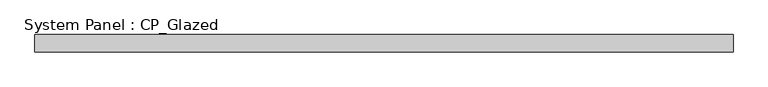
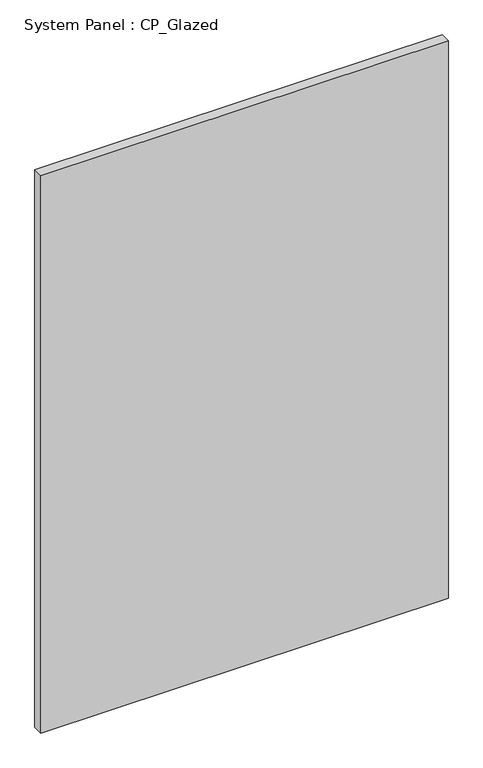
"""IFC4 building model written with IfcOpenShell, lengths in millimetres: plate geometry, System Panel : CP_Glazed."""

from ifc_helpers import new_model, si_unit, origin, origin_with_axes, place, context, project, spatial, polyline, outline, extrude, source, transform, mapped, element, save


def system_panel_cp_glazed_5e04bc7c(model_context):
    return source(origin(), model_context, "Body", "SweptSolid", [
        extrude(outline(polyline([(511.96875, -44.45), (-511.96875, -44.45), (-511.96875, -19.05), (511.96875, -19.05), (511.96875, -44.45)])), origin_with_axes(), (0.0, 0.0, 1.0), 1479.55),
    ])


if __name__ == "__main__":
    model = new_model("IFC4")
    model_context = context("Model", 3, world=origin())
    ifc_project = project(units=[si_unit("LENGTHUNIT", "METRE", prefix="MILLI")], contexts=[model_context])
    site = spatial("IfcSite", under=ifc_project)
    building = spatial("IfcBuilding", under=site)
    placement = place(None, origin())
    system_panel_cp_glazed_shape = system_panel_cp_glazed_5e04bc7c(model_context)
    element("IfcPlate", 1, ObjectType="System Panel : CP_Glazed", at=placement, inside=building, context=model_context, shape_type="MappedRepresentation", body=[
        mapped(system_panel_cp_glazed_shape, transform((0.0, 0.0, 0.0), x_axis=(1.0, 0.0, 0.0), y_axis=(0.0, 1.0, 0.0), z_axis=(0.0, 0.0, 1.0))),
    ])
    save(model, "model.ifc")
